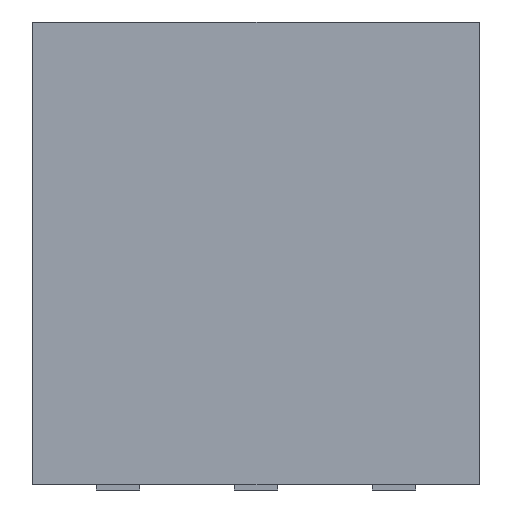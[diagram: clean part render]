
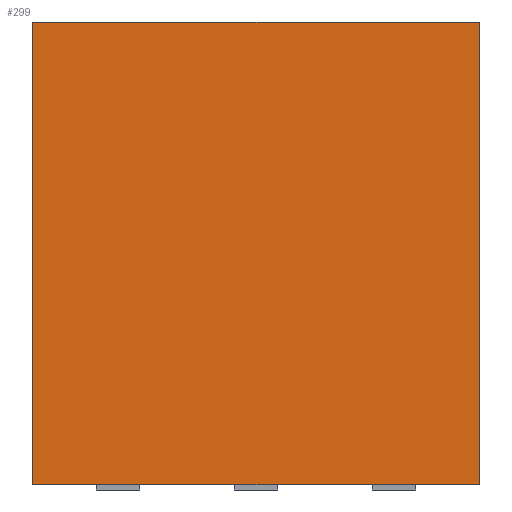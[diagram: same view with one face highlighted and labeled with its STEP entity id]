
A CAD part, left-side view. The second image highlights one B-rep face of the part: STEP entity #299.
In plain terms, the highlighted planar face has unit normal (-1, 0, 0).
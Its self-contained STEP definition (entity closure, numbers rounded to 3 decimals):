
#36 = EDGE_CURVE('',#37,#39,#41,.T.);
#37 = VERTEX_POINT('',#38);
#38 = CARTESIAN_POINT('',(-4.1,-4.1,0.));
#39 = VERTEX_POINT('',#40);
#40 = CARTESIAN_POINT('',(-4.1,-4.1,8.5));
#41 = SURFACE_CURVE('',#42,(#46,#58),.PCURVE_S1.);
#42 = LINE('',#43,#44);
#43 = CARTESIAN_POINT('',(-4.1,-4.1,0.));
#44 = VECTOR('',#45,1.);
#45 = DIRECTION('',(0.,0.,1.));
#46 = PCURVE('',#47,#52);
#47 = PLANE('',#48);
#48 = AXIS2_PLACEMENT_3D('',#49,#50,#51);
#49 = CARTESIAN_POINT('',(-4.1,-4.1,0.));
#50 = DIRECTION('',(0.,1.,0.));
#51 = DIRECTION('',(1.,0.,0.));
#52 = DEFINITIONAL_REPRESENTATION('',(#53),#57);
#53 = LINE('',#54,#55);
#54 = CARTESIAN_POINT('',(0.,0.));
#55 = VECTOR('',#56,1.);
#56 = DIRECTION('',(0.,-1.));
#57 = ( GEOMETRIC_REPRESENTATION_CONTEXT(2) 
PARAMETRIC_REPRESENTATION_CONTEXT() REPRESENTATION_CONTEXT('2D SPACE',''
  ) );
#58 = PCURVE('',#59,#64);
#59 = PLANE('',#60);
#60 = AXIS2_PLACEMENT_3D('',#61,#62,#63);
#61 = CARTESIAN_POINT('',(-4.1,4.1,0.));
#62 = DIRECTION('',(1.,0.,-0.));
#63 = DIRECTION('',(0.,-1.,0.));
#64 = DEFINITIONAL_REPRESENTATION('',(#65),#69);
#65 = LINE('',#66,#67);
#66 = CARTESIAN_POINT('',(8.2,0.));
#67 = VECTOR('',#68,1.);
#68 = DIRECTION('',(0.,-1.));
#69 = ( GEOMETRIC_REPRESENTATION_CONTEXT(2) 
PARAMETRIC_REPRESENTATION_CONTEXT() REPRESENTATION_CONTEXT('2D SPACE',''
  ) );
#87 = PLANE('',#88);
#88 = AXIS2_PLACEMENT_3D('',#89,#90,#91);
#89 = CARTESIAN_POINT('',(0.,0.,8.5));
#90 = DIRECTION('',(0.,0.,1.));
#91 = DIRECTION('',(1.,0.,0.));
#141 = PLANE('',#142);
#142 = AXIS2_PLACEMENT_3D('',#143,#144,#145);
#143 = CARTESIAN_POINT('',(0.,0.,
    0.));
#144 = DIRECTION('',(0.,0.,1.));
#145 = DIRECTION('',(1.,0.,0.));
#196 = PLANE('',#197);
#197 = AXIS2_PLACEMENT_3D('',#198,#199,#200);
#198 = CARTESIAN_POINT('',(4.1,4.1,0.));
#199 = DIRECTION('',(0.,-1.,0.));
#200 = DIRECTION('',(-1.,0.,0.));
#234 = VERTEX_POINT('',#235);
#235 = CARTESIAN_POINT('',(-4.1,4.1,8.5));
#256 = EDGE_CURVE('',#257,#234,#259,.T.);
#257 = VERTEX_POINT('',#258);
#258 = CARTESIAN_POINT('',(-4.1,4.1,0.));
#259 = SURFACE_CURVE('',#260,(#264,#271),.PCURVE_S1.);
#260 = LINE('',#261,#262);
#261 = CARTESIAN_POINT('',(-4.1,4.1,0.));
#262 = VECTOR('',#263,1.);
#263 = DIRECTION('',(0.,0.,1.));
#264 = PCURVE('',#196,#265);
#265 = DEFINITIONAL_REPRESENTATION('',(#266),#270);
#266 = LINE('',#267,#268);
#267 = CARTESIAN_POINT('',(8.2,0.));
#268 = VECTOR('',#269,1.);
#269 = DIRECTION('',(0.,-1.));
#270 = ( GEOMETRIC_REPRESENTATION_CONTEXT(2) 
PARAMETRIC_REPRESENTATION_CONTEXT() REPRESENTATION_CONTEXT('2D SPACE',''
  ) );
#271 = PCURVE('',#59,#272);
#272 = DEFINITIONAL_REPRESENTATION('',(#273),#277);
#273 = LINE('',#274,#275);
#274 = CARTESIAN_POINT('',(0.,0.));
#275 = VECTOR('',#276,1.);
#276 = DIRECTION('',(0.,-1.));
#277 = ( GEOMETRIC_REPRESENTATION_CONTEXT(2) 
PARAMETRIC_REPRESENTATION_CONTEXT() REPRESENTATION_CONTEXT('2D SPACE',''
  ) );
#299 = ADVANCED_FACE('',(#300),#59,.F.);
#300 = FACE_BOUND('',#301,.F.);
#301 = EDGE_LOOP('',(#302,#303,#324,#325));
#302 = ORIENTED_EDGE('',*,*,#256,.T.);
#303 = ORIENTED_EDGE('',*,*,#304,.T.);
#304 = EDGE_CURVE('',#234,#39,#305,.T.);
#305 = SURFACE_CURVE('',#306,(#310,#317),.PCURVE_S1.);
#306 = LINE('',#307,#308);
#307 = CARTESIAN_POINT('',(-4.1,4.1,8.5));
#308 = VECTOR('',#309,1.);
#309 = DIRECTION('',(0.,-1.,0.));
#310 = PCURVE('',#59,#311);
#311 = DEFINITIONAL_REPRESENTATION('',(#312),#316);
#312 = LINE('',#313,#314);
#313 = CARTESIAN_POINT('',(0.,-8.5));
#314 = VECTOR('',#315,1.);
#315 = DIRECTION('',(1.,0.));
#316 = ( GEOMETRIC_REPRESENTATION_CONTEXT(2) 
PARAMETRIC_REPRESENTATION_CONTEXT() REPRESENTATION_CONTEXT('2D SPACE',''
  ) );
#317 = PCURVE('',#87,#318);
#318 = DEFINITIONAL_REPRESENTATION('',(#319),#323);
#319 = LINE('',#320,#321);
#320 = CARTESIAN_POINT('',(-4.1,4.1));
#321 = VECTOR('',#322,1.);
#322 = DIRECTION('',(0.,-1.));
#323 = ( GEOMETRIC_REPRESENTATION_CONTEXT(2) 
PARAMETRIC_REPRESENTATION_CONTEXT() REPRESENTATION_CONTEXT('2D SPACE',''
  ) );
#324 = ORIENTED_EDGE('',*,*,#36,.F.);
#325 = ORIENTED_EDGE('',*,*,#326,.F.);
#326 = EDGE_CURVE('',#257,#37,#327,.T.);
#327 = SURFACE_CURVE('',#328,(#332,#339),.PCURVE_S1.);
#328 = LINE('',#329,#330);
#329 = CARTESIAN_POINT('',(-4.1,4.1,0.));
#330 = VECTOR('',#331,1.);
#331 = DIRECTION('',(0.,-1.,0.));
#332 = PCURVE('',#59,#333);
#333 = DEFINITIONAL_REPRESENTATION('',(#334),#338);
#334 = LINE('',#335,#336);
#335 = CARTESIAN_POINT('',(0.,0.));
#336 = VECTOR('',#337,1.);
#337 = DIRECTION('',(1.,0.));
#338 = ( GEOMETRIC_REPRESENTATION_CONTEXT(2) 
PARAMETRIC_REPRESENTATION_CONTEXT() REPRESENTATION_CONTEXT('2D SPACE',''
  ) );
#339 = PCURVE('',#141,#340);
#340 = DEFINITIONAL_REPRESENTATION('',(#341),#345);
#341 = LINE('',#342,#343);
#342 = CARTESIAN_POINT('',(-4.1,4.1));
#343 = VECTOR('',#344,1.);
#344 = DIRECTION('',(0.,-1.));
#345 = ( GEOMETRIC_REPRESENTATION_CONTEXT(2) 
PARAMETRIC_REPRESENTATION_CONTEXT() REPRESENTATION_CONTEXT('2D SPACE',''
  ) );
